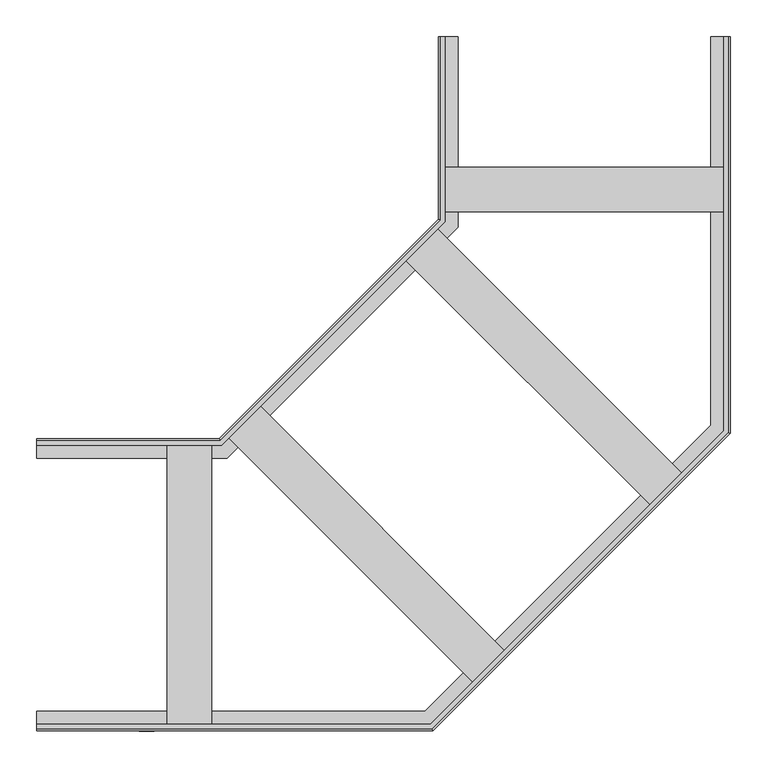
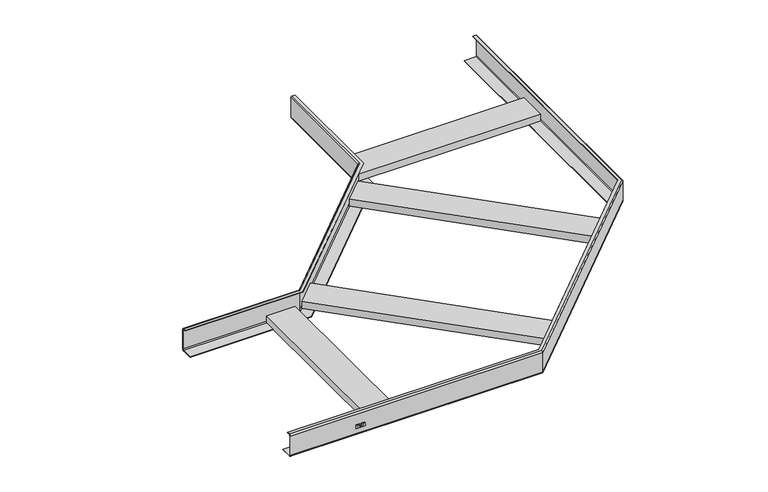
"""IFC4 building model written with IfcOpenShell, lengths in millimetres: cable carrier fitting geometry, КМ Профиль L Угол горизонтальный «Быстрый монтаж» LGLS90 : Угол горизонтальный «Быстрый монтаж» LGLS90."""

from ifc_helpers import new_model, si_unit, frame, origin, place, context, project, spatial, polyline, circle_curve, ellipse_curve, outline, extrude, source, transform, mapped, element, save
from ifc_brep_helpers import plane_surface, cylinder_surface, revolved_surface, advanced_brep


def cable_carrier_fitting_d3f8336c(model_context):
    return source(origin(), model_context, "Body", "SolidModel", [
        extrude(outline(polyline([(-1.986157, -609.2388781), (-9.737421, -609.2388781), (-9.737421, -605.6630512), (-6.5720802, -605.6630512), (-9.737421, -603.9588467), (-9.737421, -600.0604353), (-6.194034, -601.9277444), (-5.5086619, -604.1694955), (-1.986157, -601.703011), (-1.986157, -603.8289757), (-5.564509, -605.7316192), (-1.986157, -605.7316192), (-1.986157, -609.2388781)])), frame((0.0, -200.8, 0.0), z_axis=(0.0, 1.0, 0.0), x_axis=(0.0, 0.0, 1.0)), (0.0, 0.0, 1.0), 0.8),
        extrude(outline(polyline([(-9.737421, -597.9962759), (-5.0696135, -597.6126012), (-9.7434681, -596.2045824), (-9.7434681, -594.7300717), (-5.0541919, -593.2500032), (-9.7429915, -592.7725105), (-9.7429915, -588.8700699), (-1.9623682, -590.0615674), (-1.9623682, -593.2555223), (-5.0390232, -594.2768297), (-1.9647569, -595.0433304), (-1.9647569, -598.0740589), (-9.737421, -599.8943395), (-9.737421, -597.9962759)])), frame((0.0, -200.8, 0.0), z_axis=(0.0, 1.0, 0.0), x_axis=(0.0, 0.0, 1.0)), (0.0, 0.0, 1.0), 0.8),
        extrude(outline(polyline([(-510.0, 197.0), (-510.0, -197.0), (-571.0, -197.0), (-571.0, 197.0), (-510.0, 197.0)])), frame((0.0, 0.0, -24.0), z_axis=(0.0, 0.0, 1.0), x_axis=(1.0, 0.0, 0.0)), (0.0, 0.0, 1.0), 16.0),
        extrude(outline(polyline([(197.0, 571.0), (197.0, 510.0), (-197.0, 510.0), (-197.0, 571.0), (197.0, 571.0)])), frame((0.0, 0.0, -24.0), z_axis=(0.0, 0.0, 1.0), x_axis=(1.0, 0.0, 0.0)), (0.0, 0.0, 1.0), 16.0),
        extrude(outline(polyline([(137.2899346, 148.5679298), (94.156421, 105.4344161), (-248.0832611, 447.6740982), (-204.9497475, 490.8076118), (137.2899346, 148.5679298)])), frame((0.0, 0.0, -24.0), z_axis=(0.0, 0.0, 1.0), x_axis=(1.0, 0.0, 0.0)), (0.0, 0.0, 1.0), 16.0),
        extrude(outline(polyline([(-105.4344161, -94.156421), (-148.5679298, -137.2899346), (-490.8076118, 204.9497475), (-447.6740982, 248.0832611), (-105.4344161, -94.156421)])), frame((0.0, 0.0, -24.0), z_axis=(0.0, 0.0, 1.0), x_axis=(1.0, 0.0, 0.0)), (0.0, 0.0, 1.0), 16.0),
        advanced_brep(
        [(191.0, 750.0, 25.0), (197.0, 750.0, 25.0), (200.0, 750.0, 22.0), (200.0, 750.0, -22.0), (197.0, 750.0, -25.0), (173.0, 750.0, -25.0), (173.0, 750.0, -24.0), (197.0, 750.0, -24.0), (199.0, 750.0, -22.0), (199.0, 750.0, 22.0), (197.0, 750.0, 24.0), (191.0, 750.0, 24.0), (191.0, 210.7632765, 25.0), (-210.7632765, -191.0, 25.0), (-750.0, -191.0, 25.0), (-750.0, -197.0, 25.0), (-208.2779951, -197.0, 25.0), (197.0, 208.2779951, 25.0), (200.0, 207.0353544, 22.0), (200.0, 207.0353544, -22.0), (197.0, 208.2779951, -25.0), (-208.2779951, -197.0, -25.0), (-750.0, -197.0, -25.0), (-750.0, -173.0, -25.0), (-218.2191206, -173.0, -25.0), (173.0, 218.2191206, -25.0), (173.0, 218.2191206, -24.0), (-218.2191206, -173.0, -24.0), (-750.0, -173.0, -24.0), (-750.0, -197.0, -24.0), (-208.2779951, -197.0, -24.0), (197.0, 208.2779951, -24.0), (199.0, 207.449568, -22.0), (199.0, 207.449568, 22.0), (197.0, 208.2779951, 24.0), (-208.2779951, -197.0, 24.0), (-750.0, -197.0, 24.0), (-750.0, -191.0, 24.0), (-210.7632765, -191.0, 24.0), (191.0, 210.7632765, 24.0), (-207.0353544, -200.0, 22.0), (-207.0353544, -200.0, -22.0), (-207.449568, -199.0, -22.0), (-207.449568, -199.0, 22.0), (-750.0, -199.0, 22.0), (-750.0, -199.0, -22.0), (-750.0, -200.0, -22.0), (-750.0, -200.0, 22.0)],
        [
            (0, 1),
            (1, 2, circle_curve(frame((197.0, 750.0, 22.0), z_axis=(0.0, 1.0, 0.0), x_axis=(-1.0, 0.0, 0.0)), 3.0)),
            (2, 3),
            (3, 4, circle_curve(frame((197.0, 750.0, -22.0), z_axis=(0.0, 1.0, 0.0), x_axis=(-1.0, 0.0, 0.0)), 3.0)),
            (4, 5),
            (5, 6),
            (6, 7),
            (7, 8, circle_curve(frame((197.0, 750.0, -22.0), z_axis=(0.0, -1.0, 0.0), x_axis=(-1.0, 0.0, 0.0)), 2.0)),
            (8, 9),
            (9, 10, circle_curve(frame((197.0, 750.0, 22.0), z_axis=(0.0, -1.0, 0.0), x_axis=(-1.0, 0.0, 0.0)), 2.0)),
            (10, 11),
            (11, 0),
            (0, 12),
            (12, 13),
            (13, 14),
            (14, 15),
            (15, 16),
            (16, 17),
            (17, 1),
            (17, 18, ellipse_curve(frame((197.0, 208.2779951, 22.0), z_axis=(0.3826834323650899, 0.9238795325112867, 0.0), x_axis=(-0.9238795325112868, 0.3826834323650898, 0.0)), 3.2471766, 3.0)),
            (18, 2),
            (18, 19),
            (19, 3),
            (19, 20, ellipse_curve(frame((197.0, 208.2779951, -22.0), z_axis=(0.3826834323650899, 0.9238795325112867, 0.0), x_axis=(-0.9238795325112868, 0.3826834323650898, 0.0)), 3.2471766, 3.0)),
            (20, 4),
            (20, 21),
            (21, 22),
            (22, 23),
            (23, 24),
            (24, 25),
            (25, 5),
            (25, 26),
            (26, 6),
            (26, 27),
            (27, 28),
            (28, 29),
            (29, 30),
            (30, 31),
            (31, 7),
            (31, 32, ellipse_curve(frame((197.0, 208.2779951, -22.0), z_axis=(-0.3826834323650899, -0.9238795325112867, 0.0), x_axis=(0.9238795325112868, -0.3826834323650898, 0.0)), 2.1647844, 2.0)),
            (32, 8),
            (32, 33),
            (33, 9),
            (33, 34, ellipse_curve(frame((197.0, 208.2779951, 22.0), z_axis=(-0.3826834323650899, -0.9238795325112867, 0.0), x_axis=(0.9238795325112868, -0.3826834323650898, 0.0)), 2.1647844, 2.0)),
            (34, 10),
            (34, 35),
            (35, 36),
            (36, 37),
            (37, 38),
            (38, 39),
            (39, 11),
            (39, 12),
            (16, 40, ellipse_curve(frame((-208.2779951, -197.0, 22.0), z_axis=(0.9238795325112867, 0.38268343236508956, 0.0), x_axis=(-0.3826834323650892, 0.923879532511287, 0.0)), 3.2471766, 3.0)),
            (40, 18),
            (40, 41),
            (41, 19),
            (41, 21, ellipse_curve(frame((-208.2779951, -197.0, -22.0), z_axis=(0.9238795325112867, 0.38268343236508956, 0.0), x_axis=(-0.3826834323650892, 0.923879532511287, 0.0)), 3.2471766, 3.0)),
            (24, 27),
            (30, 42, ellipse_curve(frame((-208.2779951, -197.0, -22.0), z_axis=(-0.9238795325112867, -0.38268343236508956, 0.0), x_axis=(0.3826834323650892, -0.923879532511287, 0.0)), 2.1647844, 2.0)),
            (42, 32),
            (42, 43),
            (43, 33),
            (43, 35, ellipse_curve(frame((-208.2779951, -197.0, 22.0), z_axis=(-0.9238795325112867, -0.38268343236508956, 0.0), x_axis=(0.3826834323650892, -0.923879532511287, 0.0)), 2.1647844, 2.0)),
            (38, 13),
            (14, 37),
            (36, 44, circle_curve(frame((-750.0, -197.0, 22.0), z_axis=(1.0, 0.0, 0.0), x_axis=(0.0, 1.0, 0.0)), 2.0)),
            (44, 45),
            (45, 29, circle_curve(frame((-750.0, -197.0, -22.0), z_axis=(1.0, 0.0, 0.0), x_axis=(0.0, 1.0, 0.0)), 2.0)),
            (28, 23),
            (22, 46, circle_curve(frame((-750.0, -197.0, -22.0), z_axis=(-1.0, 0.0, 0.0), x_axis=(0.0, 1.0, 0.0)), 3.0)),
            (46, 47),
            (47, 15, circle_curve(frame((-750.0, -197.0, 22.0), z_axis=(-1.0, 0.0, 0.0), x_axis=(0.0, 1.0, 0.0)), 3.0)),
            (47, 40),
            (46, 41),
            (45, 42),
            (44, 43),
        ],
        [
            plane_surface(frame((200.0, 750.0, -25.0), z_axis=(0.0, 1.0, 0.0), x_axis=(0.0, 0.0, -1.0))),
            plane_surface(frame((191.0, 750.0, 25.0), z_axis=(0.0, 0.0, 1.0), x_axis=(0.0, -1.0, 0.0))),
            cylinder_surface(frame((197.0, 750.0, 22.0), z_axis=(0.0, 1.0, 0.0), x_axis=(-1.0, 0.0, 0.0)), 3.0),
            plane_surface(frame((200.0, 750.0, 22.0), z_axis=(1.0, 0.0, 0.0), x_axis=(0.0, -1.0, 0.0))),
            cylinder_surface(frame((197.0, 750.0, -22.0), z_axis=(0.0, 1.0, 0.0), x_axis=(-1.0, 0.0, 0.0)), 3.0),
            plane_surface(frame((197.0, 750.0, -25.0), z_axis=(0.0, 0.0, -1.0), x_axis=(0.0, -1.0, 0.0))),
            plane_surface(frame((173.0, 750.0, -25.0), z_axis=(-1.0, 0.0, 0.0), x_axis=(0.0, -1.0, 0.0))),
            plane_surface(frame((173.0, 750.0, -24.0), z_axis=(0.0, 0.0, 1.0), x_axis=(0.0, -1.0, 0.0))),
            revolved_surface(polyline([(195.0, 207.44956797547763, -22.0), (195.0, 750.0, -22.0)]), (197.0, 750.0, -22.0), (0.0, -1.0, 0.0)),
            plane_surface(frame((199.0, 750.0, -22.0), z_axis=(-1.0, 0.0, 0.0), x_axis=(0.0, -1.0, 0.0))),
            revolved_surface(polyline([(195.0, 207.44956797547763, 22.0), (195.0, 750.0, 22.0)]), (197.0, 750.0, 22.0), (0.0, -1.0, 0.0)),
            plane_surface(frame((197.0, 750.0, 24.0), z_axis=(0.0, 0.0, -1.0), x_axis=(0.0, -1.0, 0.0))),
            plane_surface(frame((191.0, 750.0, 24.0), z_axis=(-1.0, 0.0, 0.0), x_axis=(0.0, -1.0, 0.0))),
            cylinder_surface(frame((197.8786797, 209.1566748, 22.0), z_axis=(0.7071067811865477, 0.7071067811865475, 0.0), x_axis=(-0.7071067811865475, 0.7071067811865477, 0.0)), 3.0),
            plane_surface(frame((200.0, 207.0353544, 22.0), z_axis=(0.7071067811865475, -0.7071067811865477, 0.0), x_axis=(-0.7071067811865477, -0.7071067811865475, 0.0))),
            cylinder_surface(frame((197.8786797, 209.1566748, -22.0), z_axis=(0.7071067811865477, 0.7071067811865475, 0.0), x_axis=(-0.7071067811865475, 0.7071067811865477, 0.0)), 3.0),
            plane_surface(frame((173.0, 218.2191206, -25.0), z_axis=(-0.7071067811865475, 0.7071067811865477, 0.0), x_axis=(-0.7071067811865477, -0.7071067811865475, 0.0))),
            revolved_surface(polyline([(-210.2779951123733, -196.17157288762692, -22.0), (196.1715728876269, 210.2779951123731, -22.0)]), (197.8786797, 209.1566748, -22.0), (-0.7071067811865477, -0.7071067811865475, 0.0)),
            plane_surface(frame((199.0, 207.449568, -22.0), z_axis=(-0.7071067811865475, 0.7071067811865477, 0.0), x_axis=(-0.7071067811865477, -0.7071067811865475, 0.0))),
            revolved_surface(polyline([(-210.2779951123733, -196.17157288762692, 22.0), (196.1715728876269, 210.2779951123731, 22.0)]), (197.8786797, 209.1566748, 22.0), (-0.7071067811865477, -0.7071067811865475, 0.0)),
            plane_surface(frame((191.0, 210.7632765, 24.0), z_axis=(-0.7071067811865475, 0.7071067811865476, 0.0), x_axis=(-0.7071067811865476, -0.7071067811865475, 0.0))),
            plane_surface(frame((-750.0, -200.0, -25.0), z_axis=(-1.0, 0.0, 0.0), x_axis=(0.0, 0.0, -1.0))),
            cylinder_surface(frame((-207.0353544, -197.0, 22.0), z_axis=(1.0, 0.0, 0.0), x_axis=(0.0, 1.0, 0.0)), 3.0),
            plane_surface(frame((-207.0353544, -200.0, 22.0), z_axis=(0.0, -1.0, 0.0), x_axis=(-1.0, 0.0, 0.0))),
            cylinder_surface(frame((-207.0353544, -197.0, -22.0), z_axis=(1.0, 0.0, 0.0), x_axis=(0.0, 1.0, 0.0)), 3.0),
            plane_surface(frame((-218.2191206, -173.0, -25.0), z_axis=(0.0, 1.0, 0.0), x_axis=(-1.0, 0.0, 0.0))),
            revolved_surface(polyline([(-750.0, -195.0, -22.0), (-207.4495679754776, -195.0, -22.0)]), (-207.0353544, -197.0, -22.0), (-1.0, 0.0, 0.0)),
            plane_surface(frame((-207.449568, -199.0, -22.0), z_axis=(0.0, 1.0, 0.0), x_axis=(-1.0, 0.0, 0.0))),
            revolved_surface(polyline([(-750.0, -195.0, 22.0), (-207.4495679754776, -195.0, 22.0)]), (-207.0353544, -197.0, 22.0), (-1.0, 0.0, 0.0)),
            plane_surface(frame((-210.7632765, -191.0, 24.0), z_axis=(0.0, 1.0, 0.0), x_axis=(-1.0, 0.0, 0.0))),
        ],
        [
            (0, [[1, 2, 3, 4, 5, 6, 7, 8, 9, 10, 11, 12]]),
            (1, [[-1, 13, 14, 15, 16, 17, 18, 19]]),
            (2, [[-2, -19, 20, 21]]),
            (3, [[-3, -21, 22, 23]]),
            (4, [[-4, -23, 24, 25]]),
            (5, [[-5, -25, 26, 27, 28, 29, 30, 31]]),
            (6, [[-6, -31, 32, 33]]),
            (7, [[-7, -33, 34, 35, 36, 37, 38, 39]]),
            (8, [[-8, -39, 40, 41]]),
            (9, [[-9, -41, 42, 43]]),
            (10, [[-10, -43, 44, 45]]),
            (11, [[-11, -45, 46, 47, 48, 49, 50, 51]]),
            (12, [[-12, -51, 52, -13]]),
            (13, [[-20, -18, 53, 54]]),
            (14, [[-22, -54, 55, 56]]),
            (15, [[-24, -56, 57, -26]]),
            (16, [[-32, -30, 58, -34]]),
            (17, [[-40, -38, 59, 60]]),
            (18, [[-42, -60, 61, 62]]),
            (19, [[-44, -62, 63, -46]]),
            (20, [[-52, -50, 64, -14]]),
            (21, [[65, -48, 66, 67, 68, -36, 69, -28, 70, 71, 72, -16]]),
            (22, [[-53, -17, -72, 73]]),
            (23, [[-55, -73, -71, 74]]),
            (24, [[-57, -74, -70, -27]]),
            (25, [[-58, -29, -69, -35]]),
            (26, [[-59, -37, -68, 75]]),
            (27, [[-61, -75, -67, 76]]),
            (28, [[-63, -76, -66, -47]]),
            (29, [[-64, -49, -65, -15]]),
        ],
    ),
        advanced_brep(
        [(-750.0, 191.0, 25.0), (-750.0, 197.0, 25.0), (-750.0, 200.0, 22.0), (-750.0, 200.0, -22.0), (-750.0, 197.0, -25.0), (-750.0, 173.0, -25.0), (-750.0, 173.0, -24.0), (-750.0, 197.0, -24.0), (-750.0, 199.0, -22.0), (-750.0, 199.0, 22.0), (-750.0, 197.0, 24.0), (-750.0, 191.0, 24.0), (-496.2720779, 191.0, 25.0), (-191.0, 496.2720779, 25.0), (-191.0, 750.0, 25.0), (-197.0, 750.0, 25.0), (-197.0, 498.7573593, 25.0), (-498.7573593, 197.0, 25.0), (-500.0, 200.0, 22.0), (-500.0, 200.0, -22.0), (-498.7573593, 197.0, -25.0), (-197.0, 498.7573593, -25.0), (-197.0, 750.0, -25.0), (-173.0, 750.0, -25.0), (-173.0, 488.8162338, -25.0), (-488.8162338, 173.0, -25.0), (-488.8162338, 173.0, -24.0), (-200.0, 500.0, 22.0), (-200.0, 500.0, -22.0), (-173.0, 488.8162338, -24.0), (-191.0, 750.0, 24.0), (-197.0, 750.0, 24.0), (-199.0, 750.0, 22.0), (-199.0, 750.0, -22.0), (-197.0, 750.0, -24.0), (-173.0, 750.0, -24.0), (-200.0, 750.0, -22.0), (-200.0, 750.0, 22.0), (-197.0, 498.7573593, -24.0), (-498.7573593, 197.0, -24.0), (-499.5857864, 199.0, -22.0), (-499.5857864, 199.0, 22.0), (-498.7573593, 197.0, 24.0), (-197.0, 498.7573593, 24.0), (-191.0, 496.2720779, 24.0), (-496.2720779, 191.0, 24.0), (-199.0, 499.5857864, -22.0), (-199.0, 499.5857864, 22.0)],
        [
            (0, 1),
            (1, 2, circle_curve(frame((-750.0, 197.0, 22.0), z_axis=(-1.0, 0.0, 0.0), x_axis=(0.0, -1.0, 0.0)), 3.0)),
            (2, 3),
            (3, 4, circle_curve(frame((-750.0, 197.0, -22.0), z_axis=(-1.0, 0.0, 0.0), x_axis=(0.0, -1.0, 0.0)), 3.0)),
            (4, 5),
            (5, 6),
            (6, 7),
            (7, 8, circle_curve(frame((-750.0, 197.0, -22.0), z_axis=(1.0, 0.0, 0.0), x_axis=(0.0, -1.0, 0.0)), 2.0)),
            (8, 9),
            (9, 10, circle_curve(frame((-750.0, 197.0, 22.0), z_axis=(1.0, 0.0, 0.0), x_axis=(0.0, -1.0, 0.0)), 2.0)),
            (10, 11),
            (11, 0),
            (0, 12),
            (12, 13),
            (13, 14),
            (14, 15),
            (15, 16),
            (16, 17),
            (17, 1),
            (2, 18),
            (18, 19),
            (19, 3),
            (4, 20),
            (20, 21),
            (21, 22),
            (22, 23),
            (23, 24),
            (24, 25),
            (25, 5),
            (25, 26),
            (26, 6),
            (18, 27),
            (27, 28),
            (28, 19),
            (24, 29),
            (29, 26),
            (14, 30),
            (30, 31),
            (31, 32, circle_curve(frame((-197.0, 750.0, 22.0), z_axis=(0.0, -1.0, 0.0), x_axis=(1.0, 0.0, 0.0)), 2.0)),
            (32, 33),
            (33, 34, circle_curve(frame((-197.0, 750.0, -22.0), z_axis=(0.0, -1.0, 0.0), x_axis=(1.0, 0.0, 0.0)), 2.0)),
            (34, 35),
            (35, 23),
            (22, 36, circle_curve(frame((-197.0, 750.0, -22.0), z_axis=(0.0, 1.0, 0.0), x_axis=(1.0, 0.0, 0.0)), 3.0)),
            (36, 37),
            (37, 15, circle_curve(frame((-197.0, 750.0, 22.0), z_axis=(0.0, 1.0, 0.0), x_axis=(1.0, 0.0, 0.0)), 3.0)),
            (27, 37),
            (36, 28),
            (35, 29),
            (17, 18, ellipse_curve(frame((-498.7573593, 197.0, 22.0), z_axis=(-0.9238795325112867, -0.3826834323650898, 0.0), x_axis=(-0.3826834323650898, 0.9238795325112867, 0.0)), 3.2471766, 3.0)),
            (19, 20, ellipse_curve(frame((-498.7573593, 197.0, -22.0), z_axis=(-0.9238795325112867, -0.3826834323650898, 0.0), x_axis=(-0.3826834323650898, 0.9238795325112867, 0.0)), 3.2471766, 3.0)),
            (34, 38),
            (38, 39),
            (39, 7),
            (39, 40, ellipse_curve(frame((-498.7573593, 197.0, -22.0), z_axis=(0.9238795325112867, 0.3826834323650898, 0.0), x_axis=(0.3826834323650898, -0.9238795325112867, 0.0)), 2.1647844, 2.0)),
            (40, 8),
            (40, 41),
            (41, 9),
            (41, 42, ellipse_curve(frame((-498.7573593, 197.0, 22.0), z_axis=(0.9238795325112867, 0.3826834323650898, 0.0), x_axis=(0.3826834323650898, -0.9238795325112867, 0.0)), 2.1647844, 2.0)),
            (42, 10),
            (42, 43),
            (43, 31),
            (30, 44),
            (44, 45),
            (45, 11),
            (45, 12),
            (16, 27, ellipse_curve(frame((-197.0, 498.7573593, 22.0), z_axis=(-0.3826834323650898, -0.9238795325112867, 0.0), x_axis=(-0.9238795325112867, 0.3826834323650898, 0.0)), 3.2471766, 3.0)),
            (28, 21, ellipse_curve(frame((-197.0, 498.7573593, -22.0), z_axis=(-0.3826834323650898, -0.9238795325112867, 0.0), x_axis=(-0.9238795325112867, 0.3826834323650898, 0.0)), 3.2471766, 3.0)),
            (38, 46, ellipse_curve(frame((-197.0, 498.7573593, -22.0), z_axis=(0.3826834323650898, 0.9238795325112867, 0.0), x_axis=(0.9238795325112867, -0.3826834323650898, 0.0)), 2.1647844, 2.0)),
            (46, 40),
            (46, 47),
            (47, 41),
            (47, 43, ellipse_curve(frame((-197.0, 498.7573593, 22.0), z_axis=(0.3826834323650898, 0.9238795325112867, 0.0), x_axis=(0.9238795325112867, -0.3826834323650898, 0.0)), 2.1647844, 2.0)),
            (44, 13),
            (33, 46),
            (32, 47),
        ],
        [
            plane_surface(frame((-750.0, 200.0, -25.0), z_axis=(-1.0, 0.0, 0.0), x_axis=(0.0, 0.0, -1.0))),
            plane_surface(frame((-750.0, 191.0, 25.0), z_axis=(0.0, 0.0, 1.0), x_axis=(1.0, 0.0, 0.0))),
            plane_surface(frame((-750.0, 200.0, 22.0), z_axis=(0.0, 1.0, 0.0), x_axis=(1.0, 0.0, 0.0))),
            plane_surface(frame((-750.0, 197.0, -25.0), z_axis=(0.0, 0.0, -1.0), x_axis=(1.0, 0.0, 0.0))),
            plane_surface(frame((-750.0, 173.0, -25.0), z_axis=(0.0, -1.0, 0.0), x_axis=(1.0, 0.0, 0.0))),
            plane_surface(frame((-500.0, 200.0, 22.0), z_axis=(-0.7071067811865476, 0.7071067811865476, 0.0), x_axis=(0.7071067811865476, 0.7071067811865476, 0.0))),
            plane_surface(frame((-488.8162338, 173.0, -25.0), z_axis=(0.7071067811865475, -0.7071067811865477, 0.0), x_axis=(0.7071067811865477, 0.7071067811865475, 0.0))),
            plane_surface(frame((-200.0, 750.0, -25.0), z_axis=(0.0, 1.0, 0.0), x_axis=(0.0, 0.0, -1.0))),
            plane_surface(frame((-200.0, 500.0, 22.0), z_axis=(-1.0, 0.0, 0.0), x_axis=(0.0, 1.0, 0.0))),
            plane_surface(frame((-173.0, 488.8162338, -25.0), z_axis=(1.0, 0.0, 0.0), x_axis=(0.0, 1.0, 0.0))),
            cylinder_surface(frame((-750.0, 197.0, 22.0), z_axis=(-1.0, 0.0, 0.0), x_axis=(0.0, -1.0, 0.0)), 3.0),
            cylinder_surface(frame((-750.0, 197.0, -22.0), z_axis=(-1.0, 0.0, 0.0), x_axis=(0.0, -1.0, 0.0)), 3.0),
            plane_surface(frame((-750.0, 173.0, -24.0), z_axis=(0.0, 0.0, 1.0), x_axis=(1.0, 0.0, 0.0))),
            revolved_surface(polyline([(-497.9289321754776, 195.0, -22.0), (-750.0, 195.0, -22.0)]), (-750.0, 197.0, -22.0), (1.0, 0.0, 0.0)),
            plane_surface(frame((-750.0, 199.0, -22.0), z_axis=(0.0, -1.0, 0.0), x_axis=(1.0, 0.0, 0.0))),
            revolved_surface(polyline([(-497.9289321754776, 195.0, 22.0), (-750.0, 195.0, 22.0)]), (-750.0, 197.0, 22.0), (1.0, 0.0, 0.0)),
            plane_surface(frame((-750.0, 197.0, 24.0), z_axis=(0.0, 0.0, -1.0), x_axis=(1.0, 0.0, 0.0))),
            plane_surface(frame((-750.0, 191.0, 24.0), z_axis=(0.0, -1.0, 0.0), x_axis=(1.0, 0.0, 0.0))),
            cylinder_surface(frame((-497.8786797, 197.8786797, 22.0), z_axis=(-0.7071067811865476, -0.7071067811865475, 0.0), x_axis=(0.7071067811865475, -0.7071067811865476, 0.0)), 3.0),
            cylinder_surface(frame((-497.8786797, 197.8786797, -22.0), z_axis=(-0.7071067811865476, -0.7071067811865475, 0.0), x_axis=(0.7071067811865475, -0.7071067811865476, 0.0)), 3.0),
            revolved_surface(polyline([(-195.00000005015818, 497.92893222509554, -22.0), (-497.9289322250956, 195.00000005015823, -22.0)]), (-497.8786797, 197.8786797, -22.0), (0.7071067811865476, 0.7071067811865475, 0.0)),
            plane_surface(frame((-499.5857864, 199.0, -22.0), z_axis=(0.7071067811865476, -0.7071067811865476, 0.0), x_axis=(0.7071067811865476, 0.7071067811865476, 0.0))),
            revolved_surface(polyline([(-195.00000005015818, 497.92893222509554, 22.0), (-497.9289322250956, 195.00000005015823, 22.0)]), (-497.8786797, 197.8786797, 22.0), (0.7071067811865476, 0.7071067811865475, 0.0)),
            plane_surface(frame((-496.2720779, 191.0, 24.0), z_axis=(0.7071067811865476, -0.7071067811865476, 0.0), x_axis=(0.7071067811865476, 0.7071067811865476, 0.0))),
            cylinder_surface(frame((-197.0, 500.0, 22.0), z_axis=(0.0, -1.0, 0.0), x_axis=(1.0, 0.0, 0.0)), 3.0),
            cylinder_surface(frame((-197.0, 500.0, -22.0), z_axis=(0.0, -1.0, 0.0), x_axis=(1.0, 0.0, 0.0)), 3.0),
            revolved_surface(polyline([(-195.0, 750.0, -22.0), (-195.0, 497.9289321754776, -22.0)]), (-197.0, 500.0, -22.0), (0.0, 1.0, 0.0)),
            plane_surface(frame((-199.0, 499.5857864, -22.0), z_axis=(1.0, 0.0, 0.0), x_axis=(0.0, 1.0, 0.0))),
            revolved_surface(polyline([(-195.0, 750.0, 22.0), (-195.0, 497.9289321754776, 22.0)]), (-197.0, 500.0, 22.0), (0.0, 1.0, 0.0)),
            plane_surface(frame((-191.0, 496.2720779, 24.0), z_axis=(1.0, 0.0, 0.0), x_axis=(0.0, 1.0, 0.0))),
        ],
        [
            (0, [[1, 2, 3, 4, 5, 6, 7, 8, 9, 10, 11, 12]]),
            (1, [[-1, 13, 14, 15, 16, 17, 18, 19]]),
            (2, [[-3, 20, 21, 22]]),
            (3, [[-5, 23, 24, 25, 26, 27, 28, 29]]),
            (4, [[-6, -29, 30, 31]]),
            (5, [[-21, 32, 33, 34]]),
            (6, [[-30, -28, 35, 36]]),
            (7, [[37, 38, 39, 40, 41, 42, 43, -26, 44, 45, 46, -16]]),
            (8, [[-33, 47, -45, 48]]),
            (9, [[-35, -27, -43, 49]]),
            (10, [[-2, -19, 50, -20]]),
            (11, [[-4, -22, 51, -23]]),
            (12, [[-7, -31, -36, -49, -42, 52, 53, 54]]),
            (13, [[-8, -54, 55, 56]]),
            (14, [[-9, -56, 57, 58]]),
            (15, [[-10, -58, 59, 60]]),
            (16, [[-11, -60, 61, 62, -38, 63, 64, 65]]),
            (17, [[-12, -65, 66, -13]]),
            (18, [[-50, -18, 67, -32]]),
            (19, [[-51, -34, 68, -24]]),
            (20, [[-55, -53, 69, 70]]),
            (21, [[-57, -70, 71, 72]]),
            (22, [[-59, -72, 73, -61]]),
            (23, [[-66, -64, 74, -14]]),
            (24, [[-67, -17, -46, -47]]),
            (25, [[-68, -48, -44, -25]]),
            (26, [[-69, -52, -41, 75]]),
            (27, [[-71, -75, -40, 76]]),
            (28, [[-73, -76, -39, -62]]),
            (29, [[-74, -63, -37, -15]]),
        ],
    ),
    ])


if __name__ == "__main__":
    model = new_model("IFC4")
    model_context = context("Model", 3, world=origin())
    ifc_project = project(units=[si_unit("LENGTHUNIT", "METRE", prefix="MILLI")], contexts=[model_context])
    site = spatial("IfcSite", under=ifc_project)
    building = spatial("IfcBuilding", under=site)
    placement = place(None, origin())
    cable_carrier_fitting_shape = cable_carrier_fitting_d3f8336c(model_context)
    element("IfcCableCarrierFitting", 1, ObjectType="КМ Профиль L Угол горизонтальный «Быстрый монтаж» LGLS90 : Угол горизонтальный «Быстрый монтаж» LGLS90", at=placement, inside=building, context=model_context, shape_type="MappedRepresentation", body=[
        mapped(cable_carrier_fitting_shape, transform((0.0, 0.0, 0.0), x_axis=(1.0, 0.0, 0.0), y_axis=(0.0, 1.0, 0.0), z_axis=(0.0, 0.0, 1.0))),
    ])
    save(model, "model.ifc")
